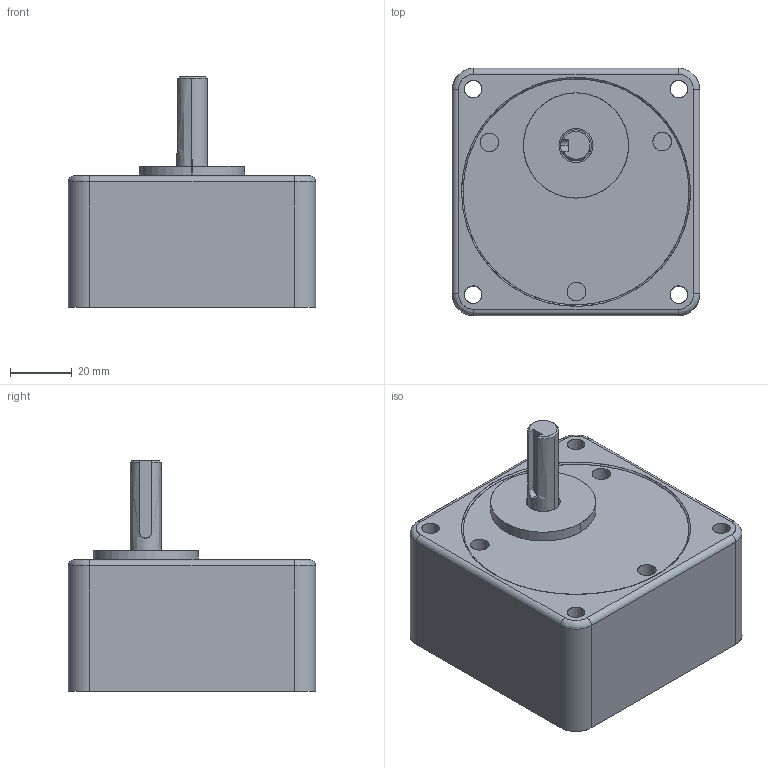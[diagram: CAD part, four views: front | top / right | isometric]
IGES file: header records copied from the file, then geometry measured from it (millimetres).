
Start section: SolidWorks IGES file using analytic representation for surfaces
Global section: file name: C:\Documents and Settings\user\ｹﾙﾅﾁ ﾈｭｸ饅(12-6) 8GBK｡滷MH(25~360).IGS,1; native system: 5HSolidWorks 2007; preprocessor: SolidWorks 2007; author: user; date: 150825.152621; units: millimetre
Bounding box: 80 x 80 x 74.5 mm (x, y, z)
Surface area: 31578.7 mm2 (no closed solid volume)
Topology: 0 solids, 0 shells, 61 faces, 1344 edges, 1343 vertices
Faces by surface type: revolution 37, bspline 24
